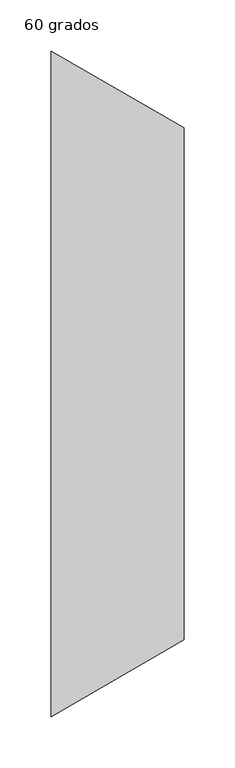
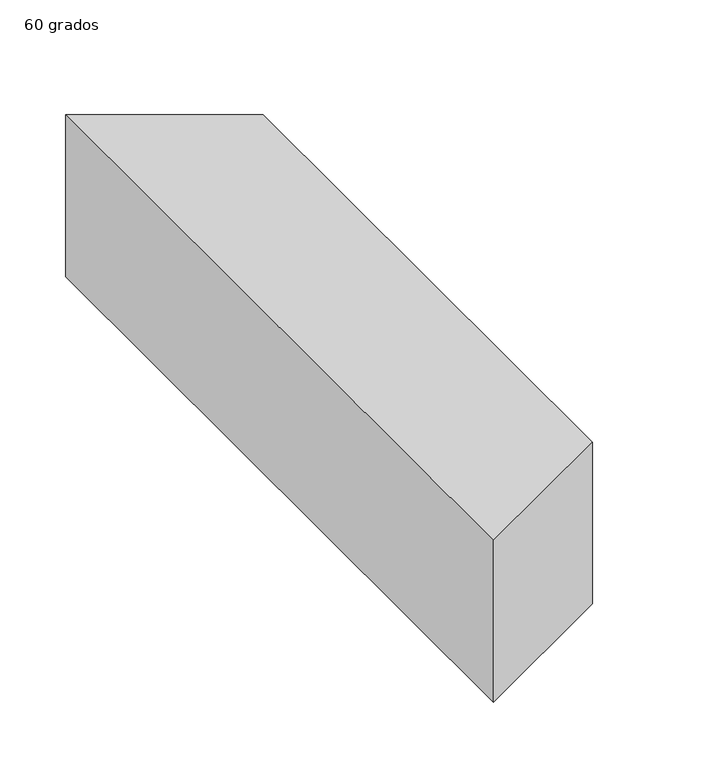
"""IFC4 building model written with IfcOpenShell, lengths in millimetres: duct fitting geometry, M_Transición rectangular - Ángulo : 60 grados."""

from ifc_helpers import new_model, si_unit, frame, origin, place, context, project, spatial, polyline, outline, extrude, source, transform, mapped, element, save


def duct_fitting_60_grados_f784361c(model_context):
    return source(origin(), model_context, "Body", "SweptSolid", [
        extrude(outline(polyline([(0.0, -325.0), (0.0, 325.0), (129.9038106, 250.0), (129.9038106, -250.0), (0.0, -325.0)])), frame((0.0, 0.0, -75.0), z_axis=(0.0, 0.0, 1.0), x_axis=(1.0, 0.0, 0.0)), (0.0, 0.0, 1.0), 150.0),
    ])


if __name__ == "__main__":
    model = new_model("IFC4")
    model_context = context("Model", 3, world=origin())
    ifc_project = project(units=[si_unit("LENGTHUNIT", "METRE", prefix="MILLI")], contexts=[model_context])
    site = spatial("IfcSite", under=ifc_project)
    building = spatial("IfcBuilding", under=site)
    placement = place(None, origin())
    duct_fitting_60_grados_shape = duct_fitting_60_grados_f784361c(model_context)
    element("IfcDuctFitting", 1, ObjectType="M_Transición rectangular - Ángulo : 60 grados", at=placement, inside=building, context=model_context, shape_type="MappedRepresentation", body=[
        mapped(duct_fitting_60_grados_shape, transform((0.0, 0.0, 0.0), x_axis=(1.0, 0.0, 0.0), y_axis=(0.0, 1.0, 0.0), z_axis=(0.0, 0.0, 1.0))),
    ])
    save(model, "model.ifc")
